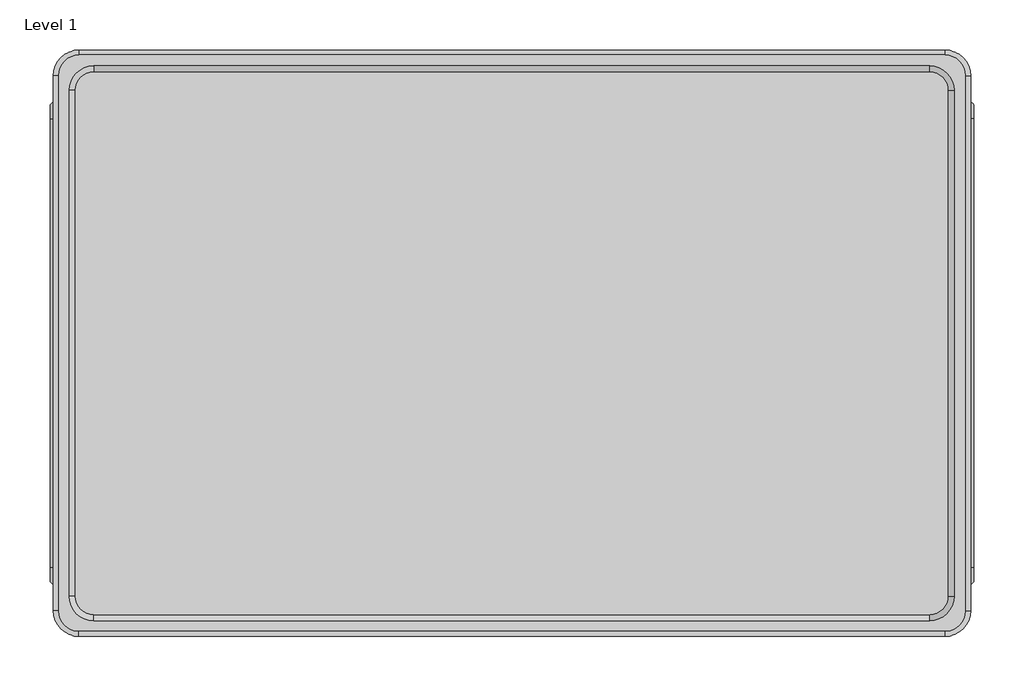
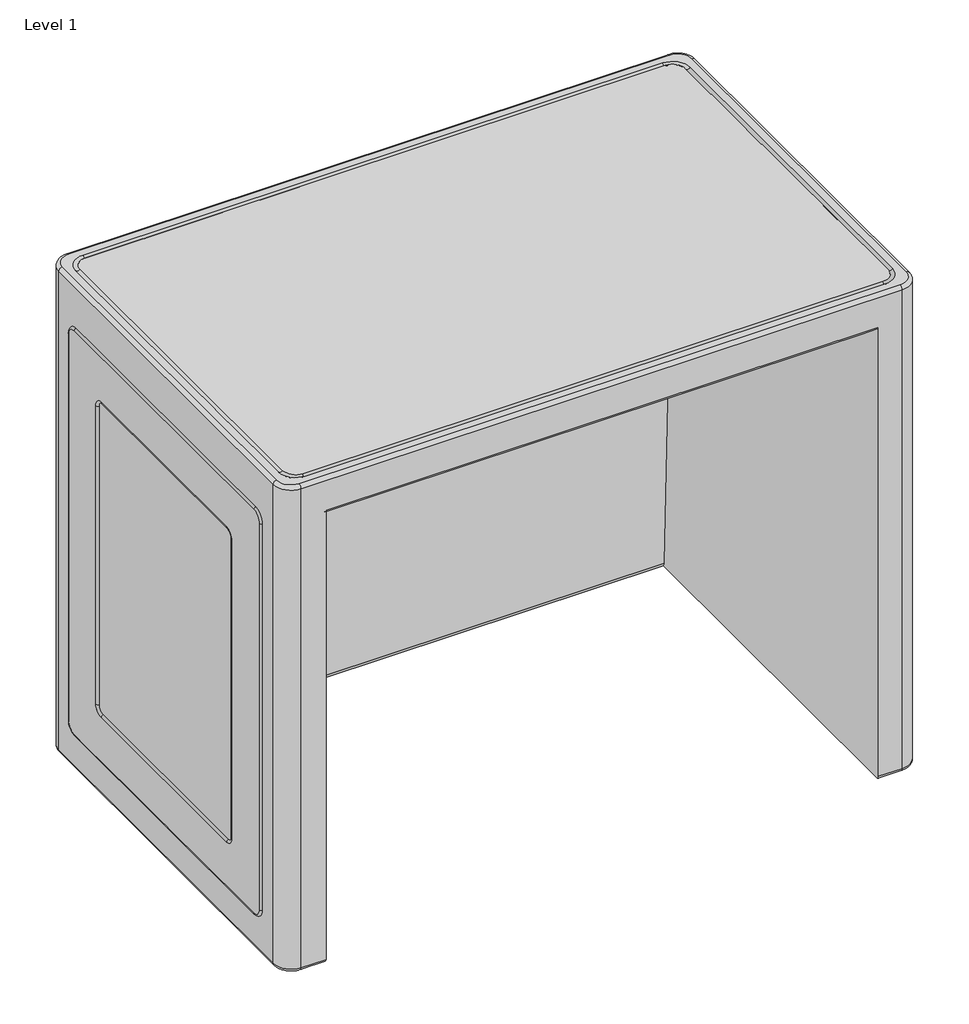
# One storey, incomplete: 1 furniture element.
"""IFC4 building model written with IfcOpenShell, lengths in millimetres."""

from ifc_helpers import new_model, si_unit, origin, place, context, project, spatial, transform, mapped, element, save
from components import furniture_8874e70b

model = new_model("IFC4")

# Units and contexts
model_context = context("Model", 3, world=origin())
ifc_project = project(units=[si_unit("LENGTHUNIT", "METRE", prefix="MILLI")], contexts=[model_context])

# Site, building, storey
site = spatial("IfcSite", under=ifc_project)
building = spatial("IfcBuilding", under=site)
storey = spatial("IfcBuildingStorey", under=building, Name="Level 1", Elevation=0.0)

# Furniture
placement = place(None, origin())
furniture_shape = furniture_8874e70b(model_context)
element("IfcFurniture", 1, ObjectType="StanceHC-Frontier-Table_Desk : FRCG500", at=placement, inside=storey, context=model_context, shape_type="MappedRepresentation", body=[
    mapped(furniture_shape, transform((1386.2095977, 5098.8649279, 0.0), x_axis=(1.0, 0.0, 0.0), y_axis=(0.0, 1.0, 0.0), z_axis=(0.0, 0.0, 1.0))),
])

save(model, "model.ifc")
